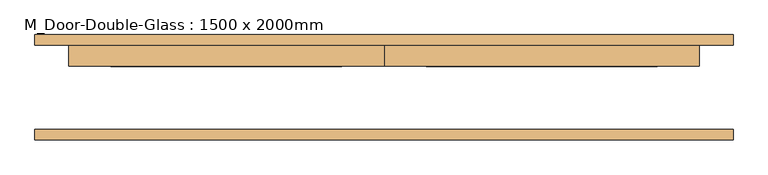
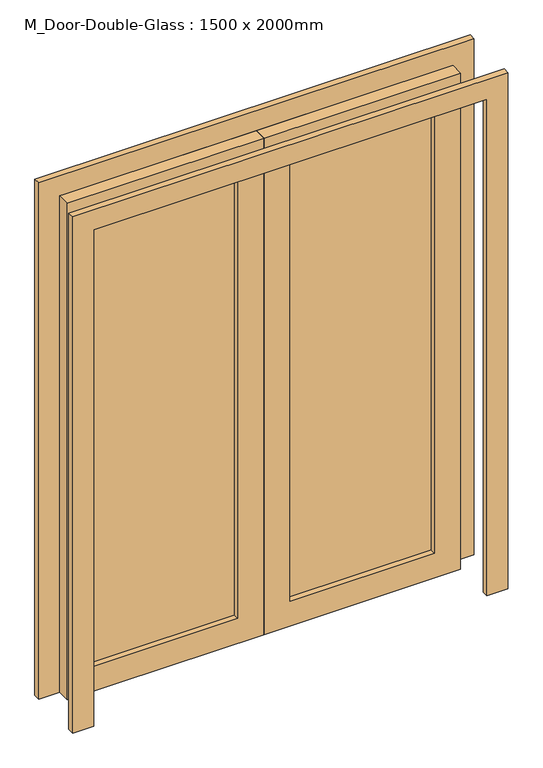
"""IFC4 building model written with IfcOpenShell, lengths in millimetres: door geometry, M_Door-Double-Glass : 1500 x 2000mm."""

from ifc_helpers import new_model, si_unit, frame, origin, place, context, project, spatial, polyline, outline, extrude, source, transform, mapped, element, save


def m_door_double_glass_1500_x_2000mm_770e8f3f(model_context):
    return source(origin(), model_context, "Body", "SweptSolid", [
        extrude(outline(polyline([(2000.0, -750.0), (0.0, -750.0), (0.0, 0.0), (2000.0, 0.0), (2000.0, -750.0)]), holes=[polyline([(1900.0, -650.0), (1900.0, -100.0), (100.0, -100.0), (100.0, -650.0), (1900.0, -650.0)])]), frame((0.0, 52.38125, 0.0), z_axis=(0.0, 1.0, 0.0), x_axis=(0.0, 0.0, 1.0)), (0.0, 0.0, 1.0), 50.0),
        extrude(outline(polyline([(2000.0, 750.0), (2000.0, 0.0), (0.0, 0.0), (0.0, 750.0), (2000.0, 750.0)]), holes=[polyline([(1900.0, 650.0), (100.0, 650.0), (100.0, 100.0), (1900.0, 100.0), (1900.0, 650.0)])]), frame((0.0, 52.38125, 0.0), z_axis=(0.0, 1.0, 0.0), x_axis=(0.0, 0.0, 1.0)), (0.0, 0.0, 1.0), 50.0),
        extrude(outline(polyline([(100.0, 80.55625), (650.0, 80.55625), (650.0, 74.20625), (100.0, 74.20625), (100.0, 80.55625)])), frame((0.0, 0.0, 100.0), z_axis=(0.0, 0.0, 1.0), x_axis=(1.0, 0.0, 0.0)), (0.0, 0.0, 1.0), 1800.0),
        extrude(outline(polyline([(-650.0, 80.55625), (-100.0, 80.55625), (-100.0, 74.20625), (-650.0, 74.20625), (-650.0, 80.55625)])), frame((0.0, 0.0, 100.0), z_axis=(0.0, 0.0, 1.0), x_axis=(1.0, 0.0, 0.0)), (0.0, 0.0, 1.0), 1800.0),
        extrude(outline(polyline([(0.0, 830.0), (2080.0, 830.0), (2080.0, -830.0), (0.0, -830.0), (0.0, -750.0), (2000.0, -750.0), (2000.0, 750.0), (0.0, 750.0), (0.0, 830.0)])), frame((0.0, 102.38125, 0.0), z_axis=(0.0, 1.0, 0.0), x_axis=(0.0, 0.0, 1.0)), (0.0, 0.0, 1.0), 25.0),
        extrude(outline(polyline([(0.0, 830.0), (2080.0, 830.0), (2080.0, -830.0), (0.0, -830.0), (0.0, -750.0), (2000.0, -750.0), (2000.0, 750.0), (0.0, 750.0), (0.0, 830.0)])), frame((0.0, -122.61875, 0.0), z_axis=(0.0, 1.0, 0.0), x_axis=(0.0, 0.0, 1.0)), (0.0, 0.0, 1.0), 25.0),
    ])


if __name__ == "__main__":
    model = new_model("IFC4")
    model_context = context("Model", 3, world=origin())
    ifc_project = project(units=[si_unit("LENGTHUNIT", "METRE", prefix="MILLI")], contexts=[model_context])
    site = spatial("IfcSite", under=ifc_project)
    building = spatial("IfcBuilding", under=site)
    placement = place(None, origin())
    m_door_double_glass_1500_x_2000mm_shape = m_door_double_glass_1500_x_2000mm_770e8f3f(model_context)
    element("IfcDoor", 1, ObjectType="M_Door-Double-Glass : 1500 x 2000mm", at=placement, inside=building, context=model_context, shape_type="MappedRepresentation", body=[
        mapped(m_door_double_glass_1500_x_2000mm_shape, transform((0.0, 0.0, 0.0), x_axis=(1.0, 0.0, 0.0), y_axis=(0.0, 1.0, 0.0), z_axis=(0.0, 0.0, 1.0))),
    ])
    save(model, "model.ifc")
